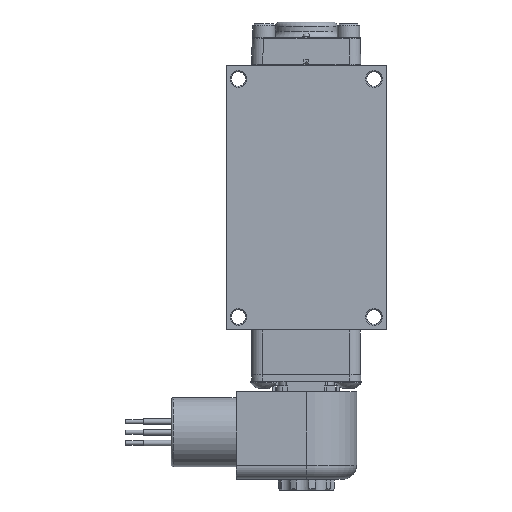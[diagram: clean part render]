
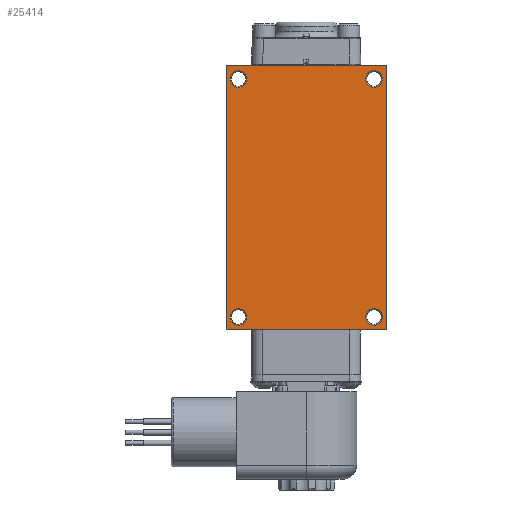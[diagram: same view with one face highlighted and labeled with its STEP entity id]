
A CAD part, front view. The second image highlights one B-rep face of the part: STEP entity #25414.
In plain terms, the highlighted planar face has unit normal (0, -1, 0).
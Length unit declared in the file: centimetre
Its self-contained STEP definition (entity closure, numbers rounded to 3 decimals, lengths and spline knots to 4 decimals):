
#420=LINE('',#37613,#2132);
#430=LINE('',#37654,#2142);
#655=LINE('',#38859,#2367);
#898=LINE('',#40283,#2610);
#2132=VECTOR('',#30216,5.715);
#2142=VECTOR('',#30250,5.715);
#2367=VECTOR('',#30697,9.4209);
#2610=VECTOR('',#31090,9.4209);
#4668=FACE_BOUND('',#7422,.T.);
#4669=FACE_BOUND('',#7423,.T.);
#4670=FACE_BOUND('',#7424,.T.);
#4671=FACE_BOUND('',#7425,.T.);
#5725=FACE_OUTER_BOUND('',#7421,.T.);
#7421=EDGE_LOOP('',(#18004,#18005,#18006,#18007));
#7422=EDGE_LOOP('',(#18008));
#7423=EDGE_LOOP('',(#18009));
#7424=EDGE_LOOP('',(#18010));
#7425=EDGE_LOOP('',(#18011));
#9104=CIRCLE('',#27209,0.2959);
#9105=CIRCLE('',#27211,0.2959);
#9106=CIRCLE('',#27212,0.2959);
#9107=CIRCLE('',#27213,0.2959);
#10349=VERTEX_POINT('',#37610);
#10350=VERTEX_POINT('',#37612);
#10368=VERTEX_POINT('',#37651);
#10369=VERTEX_POINT('',#37653);
#10894=VERTEX_POINT('',#40858);
#10895=VERTEX_POINT('',#40861);
#10896=VERTEX_POINT('',#40863);
#10897=VERTEX_POINT('',#40865);
#12781=EDGE_CURVE('',#10349,#10350,#420,.T.);
#12800=EDGE_CURVE('',#10368,#10369,#430,.T.);
#13121=EDGE_CURVE('',#10369,#10349,#655,.T.);
#13458=EDGE_CURVE('',#10350,#10368,#898,.T.);
#13555=EDGE_CURVE('',#10894,#10894,#9104,.T.);
#13556=EDGE_CURVE('',#10895,#10895,#9105,.T.);
#13557=EDGE_CURVE('',#10896,#10896,#9106,.T.);
#13558=EDGE_CURVE('',#10897,#10897,#9107,.T.);
#18004=ORIENTED_EDGE('',*,*,#13458,.F.);
#18005=ORIENTED_EDGE('',*,*,#12781,.F.);
#18006=ORIENTED_EDGE('',*,*,#13121,.F.);
#18007=ORIENTED_EDGE('',*,*,#12800,.F.);
#18008=ORIENTED_EDGE('',*,*,#13556,.F.);
#18009=ORIENTED_EDGE('',*,*,#13557,.F.);
#18010=ORIENTED_EDGE('',*,*,#13558,.F.);
#18011=ORIENTED_EDGE('',*,*,#13555,.F.);
#22980=PLANE('',#27210);
#25414=ADVANCED_FACE('',(#5725,#4668,#4669,#4670,#4671),#22980,.F.);
#27209=AXIS2_PLACEMENT_3D('',#40859,#31295,#31296);
#27210=AXIS2_PLACEMENT_3D('',#40860,#31297,#31298);
#27211=AXIS2_PLACEMENT_3D('',#40862,#31299,#31300);
#27212=AXIS2_PLACEMENT_3D('',#40864,#31301,#31302);
#27213=AXIS2_PLACEMENT_3D('',#40866,#31303,#31304);
#30216=DIRECTION('',(1.,0.,0.));
#30250=DIRECTION('',(-1.,0.,0.));
#30697=DIRECTION('',(0.,0.,1.));
#31090=DIRECTION('',(0.,0.,-1.));
#31295=DIRECTION('center_axis',(0.,-1.,0.));
#31296=DIRECTION('ref_axis',(1.,0.,0.));
#31297=DIRECTION('center_axis',(0.,1.,0.));
#31298=DIRECTION('ref_axis',(0.,0.,1.));
#31299=DIRECTION('center_axis',(0.,-1.,0.));
#31300=DIRECTION('ref_axis',(1.,0.,0.));
#31301=DIRECTION('center_axis',(0.,-1.,0.));
#31302=DIRECTION('ref_axis',(1.,0.,0.));
#31303=DIRECTION('center_axis',(0.,-1.,0.));
#31304=DIRECTION('ref_axis',(1.,0.,0.));
#37610=CARTESIAN_POINT('',(-2.8575,-1.6358,4.7104));
#37612=CARTESIAN_POINT('',(2.8575,-1.6358,4.7104));
#37613=CARTESIAN_POINT('',(2.8575,-1.6358,4.7104));
#37651=CARTESIAN_POINT('',(2.8575,-1.6358,-4.7104));
#37653=CARTESIAN_POINT('',(-2.8575,-1.6358,-4.7104));
#37654=CARTESIAN_POINT('',(-2.8575,-1.6358,-4.7104));
#38859=CARTESIAN_POINT('',(-2.8575,-1.6358,4.7104));
#40283=CARTESIAN_POINT('',(2.8575,-1.6358,-4.7104));
#40858=CARTESIAN_POINT('',(2.1247,-1.6358,4.2469));
#40859=CARTESIAN_POINT('Origin',(2.4206,-1.6358,4.2469));
#40860=CARTESIAN_POINT('Origin',(0.,-1.6358,0.));
#40861=CARTESIAN_POINT('',(-2.7165,-1.6358,4.2469));
#40862=CARTESIAN_POINT('Origin',(-2.4206,-1.6358,4.2469));
#40863=CARTESIAN_POINT('',(2.1247,-1.6358,-4.2469));
#40864=CARTESIAN_POINT('Origin',(2.4206,-1.6358,-4.2469));
#40865=CARTESIAN_POINT('',(-2.7165,-1.6358,-4.2469));
#40866=CARTESIAN_POINT('Origin',(-2.4206,-1.6358,-4.2469));
